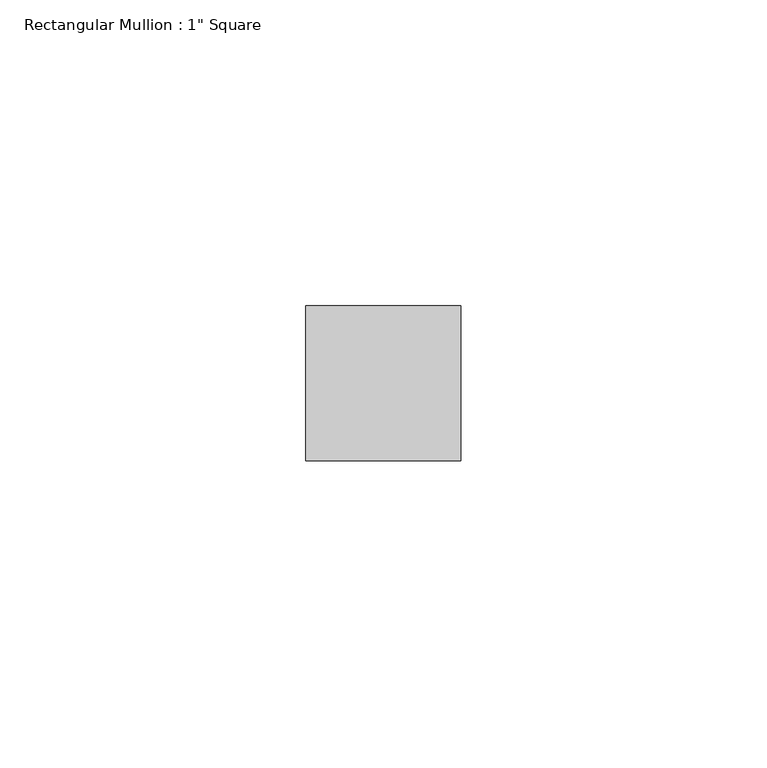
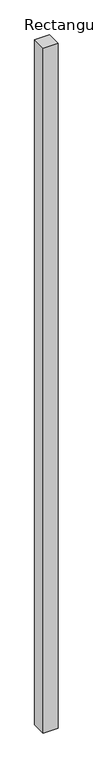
"""IFC4 building model written with IfcOpenShell, lengths in millimetres: member geometry."""

from ifc_helpers import new_model, si_unit, frame, origin, place, context, project, spatial, polyline, outline, extrude, source, transform, mapped, element, save


def member_1f5db4fb(model_context):
    return source(origin(), model_context, "Body", "SweptSolid", [
        extrude(outline(polyline([(12.7, 12.7), (12.7, -12.7), (-12.7, -12.7), (-12.7, 12.7), (12.7, 12.7)])), frame((0.0, 0.0, -1248.2758573), z_axis=(0.0, 0.0, 1.0), x_axis=(1.0, 0.0, 0.0)), (0.0, 0.0, 1.0), 1248.2758573),
    ])


if __name__ == "__main__":
    model = new_model("IFC4")
    model_context = context("Model", 3, world=origin())
    ifc_project = project(units=[si_unit("LENGTHUNIT", "METRE", prefix="MILLI")], contexts=[model_context])
    site = spatial("IfcSite", under=ifc_project)
    building = spatial("IfcBuilding", under=site)
    placement = place(None, origin())
    member_shape = member_1f5db4fb(model_context)
    element("IfcMember", 1, ObjectType="Rectangular Mullion : 1\" Square", at=placement, inside=building, context=model_context, shape_type="MappedRepresentation", body=[
        mapped(member_shape, transform((0.0, 0.0, 0.0), x_axis=(1.0, 0.0, 0.0), y_axis=(0.0, 1.0, 0.0), z_axis=(0.0, 0.0, 1.0))),
    ])
    save(model, "model.ifc")
